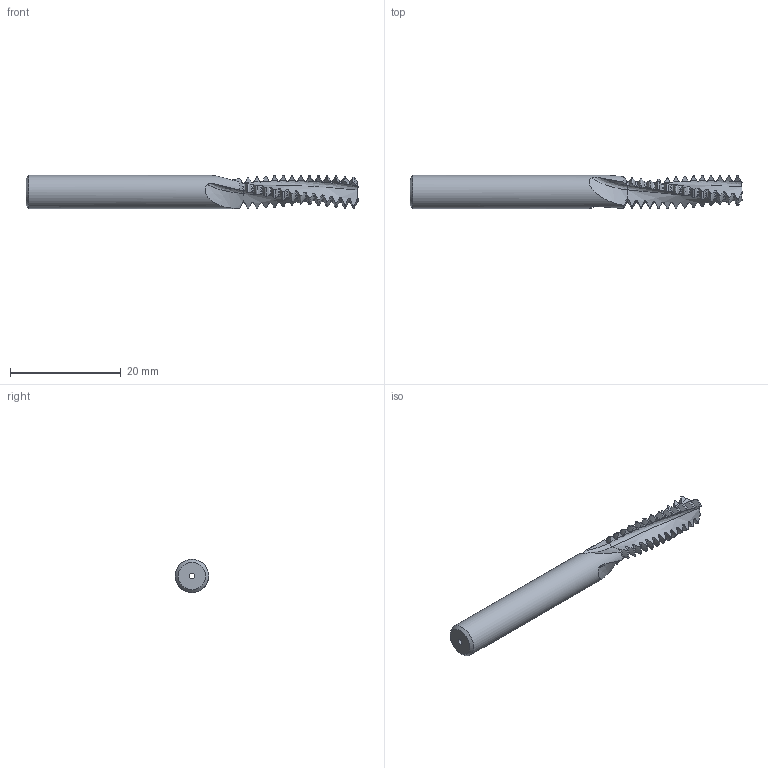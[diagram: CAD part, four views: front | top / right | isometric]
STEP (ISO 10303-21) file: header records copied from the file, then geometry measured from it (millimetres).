
FILE_DESCRIPTION(/* description */ (''),/* implementation_level */ '2;1');
FILE_NAME(/* name */ '00031723-STEP',/* time_stamp */ '2024-02-20T08:28:52+01:00',/* author */ (''),/* organization */ (''),/* preprocessor_version */ 'ST-DEVELOPER v16.5',/* originating_system */ 'HiCAD 2017 2201.0 Build 268',/* authorisation */ '');
FILE_SCHEMA (('AUTOMOTIVE_DESIGN { 1 0 10303 214 1 1 1 1 }'));
Length unit declared in the file: millimetre
Products named in the file (2): Root; ROTATIONSTEIL_0
Assembly tree (1 placements, depth 2):
  Root
    ROTATIONSTEIL_0
Bounding box: 60 x 5.99 x 6 mm (x, y, z)
Volume: 1205.6 mm3; surface area: 1347.3 mm2
Topology: 1 solids, 1 shells, 302 faces, 1060 edges, 760 vertices
Faces by surface type: torus 120, cone 82, bspline 54, cylinder 44, plane 2
Full cylindrical faces by diameter (mm): 1 x1, 6 x1
Entity records: 36429 total; most frequent: CARTESIAN_POINT 18696, PRESENTATION_STYLE_ASSIGNMENT 2109, COLOUR_RGB 2109, DRAUGHTING_PRE_DEFINED_CURVE_FONT 2108, CURVE_STYLE 2108, OVER_RIDING_STYLED_ITEM 2108, ORIENTED_EDGE 2108, DIRECTION 1162
